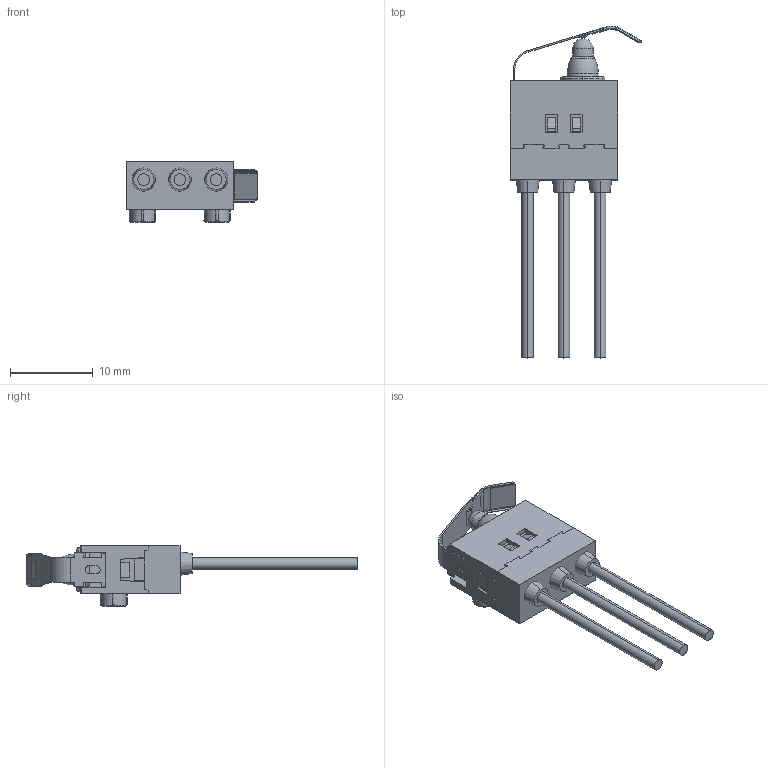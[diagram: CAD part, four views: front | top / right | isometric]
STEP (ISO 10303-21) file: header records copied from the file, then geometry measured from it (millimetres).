
FILE_DESCRIPTION (( 'STEP AP214' ), '1' );
FILE_NAME ('SPVQ350200.STEP', '2011-03-22T00:10:11', ( '' ), ( '' ), 'SwSTEP 2.0', 'SolidWorks 2007', '' );
FILE_SCHEMA (( 'AUTOMOTIVE_DESIGN' ));
Length unit declared in the file: millimetre
Products named in the file (1): SPVQ350200
Bounding box: 15.91 x 40.1 x 7.3 mm (x, y, z)
Volume: 1045.6 mm3; surface area: 1633.2 mm2
Topology: 1 solids, 1 shells, 452 faces, 1267 edges, 813 vertices
Faces by surface type: plane 259, cylinder 140, cone 23, torus 22, bspline 6, sphere 2
Entity records: 19591 total; most frequent: CARTESIAN_POINT 2807, ORIENTED_EDGE 2526, DIRECTION 2471, EDGE_CURVE 1263, VECTOR 885, LINE 885, VERTEX_POINT 811, AXIS2_PLACEMENT_3D 793
